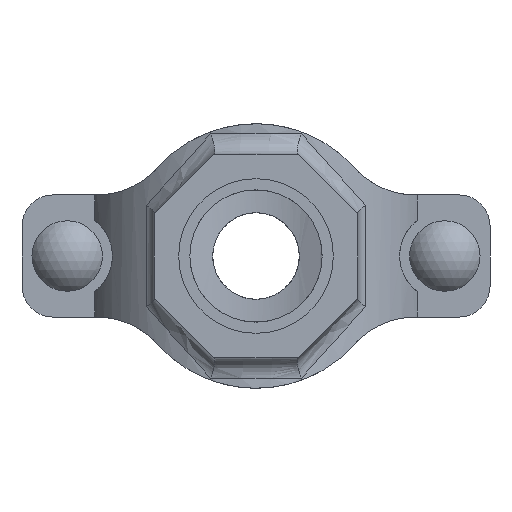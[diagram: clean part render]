
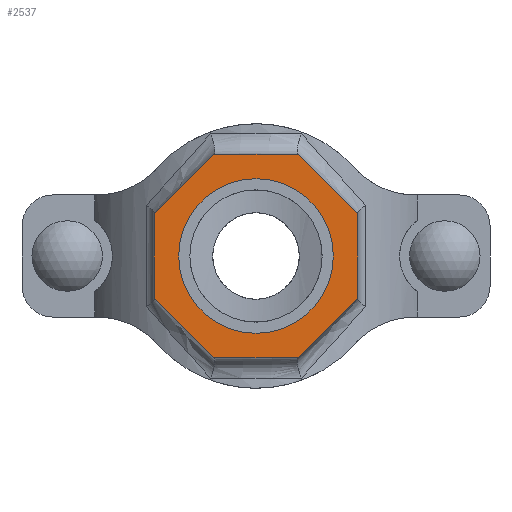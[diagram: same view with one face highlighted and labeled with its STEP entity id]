
A CAD part, front view. The second image highlights one B-rep face of the part: STEP entity #2537.
In plain terms, the highlighted planar face has unit normal (0, -1, 0) as drawn and (0, 1, 0) by its records, which use the part's own axes.
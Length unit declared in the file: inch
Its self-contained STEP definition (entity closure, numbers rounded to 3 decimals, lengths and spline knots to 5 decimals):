
#186=FACE_BOUND('',#457,.T.);
#305=FACE_OUTER_BOUND('',#456,.T.);
#456=EDGE_LOOP('',(#2128,#2129,#2130,#2131,#2132,#2133,#2134,#2135));
#457=EDGE_LOOP('',(#2136));
#594=LINE('',#4615,#780);
#597=LINE('',#4620,#783);
#599=LINE('',#4624,#785);
#601=LINE('',#4628,#787);
#637=LINE('',#5069,#823);
#639=LINE('',#5073,#825);
#641=LINE('',#5077,#827);
#643=LINE('',#5080,#829);
#780=VECTOR('',#3278,0.3937);
#783=VECTOR('',#3283,0.3937);
#785=VECTOR('',#3287,0.3937);
#787=VECTOR('',#3291,0.3937);
#823=VECTOR('',#3419,0.3937);
#825=VECTOR('',#3423,0.3937);
#827=VECTOR('',#3427,0.3937);
#829=VECTOR('',#3431,0.3937);
#919=CIRCLE('',#2802,0.95);
#1097=VERTEX_POINT('',#4612);
#1098=VERTEX_POINT('',#4614);
#1099=VERTEX_POINT('',#4618);
#1100=VERTEX_POINT('',#4622);
#1101=VERTEX_POINT('',#4626);
#1136=VERTEX_POINT('',#4906);
#1158=VERTEX_POINT('',#5068);
#1159=VERTEX_POINT('',#5072);
#1160=VERTEX_POINT('',#5076);
#1408=EDGE_CURVE('',#1098,#1097,#594,.T.);
#1411=EDGE_CURVE('',#1097,#1099,#597,.T.);
#1413=EDGE_CURVE('',#1099,#1100,#599,.T.);
#1415=EDGE_CURVE('',#1100,#1101,#601,.T.);
#1461=EDGE_CURVE('',#1136,#1136,#919,.T.);
#1491=EDGE_CURVE('',#1158,#1098,#637,.T.);
#1493=EDGE_CURVE('',#1159,#1158,#639,.T.);
#1495=EDGE_CURVE('',#1160,#1159,#641,.T.);
#1497=EDGE_CURVE('',#1101,#1160,#643,.T.);
#2128=ORIENTED_EDGE('',*,*,#1497,.T.);
#2129=ORIENTED_EDGE('',*,*,#1495,.T.);
#2130=ORIENTED_EDGE('',*,*,#1493,.T.);
#2131=ORIENTED_EDGE('',*,*,#1491,.T.);
#2132=ORIENTED_EDGE('',*,*,#1408,.T.);
#2133=ORIENTED_EDGE('',*,*,#1411,.T.);
#2134=ORIENTED_EDGE('',*,*,#1413,.T.);
#2135=ORIENTED_EDGE('',*,*,#1415,.T.);
#2136=ORIENTED_EDGE('',*,*,#1461,.T.);
#2278=PLANE('',#2823);
#2537=ADVANCED_FACE('',(#305,#186),#2278,.T.);
#2802=AXIS2_PLACEMENT_3D('',#4907,#3369,#3370);
#2823=AXIS2_PLACEMENT_3D('',#5081,#3432,#3433);
#3278=DIRECTION('',(0.,0.,1.));
#3283=DIRECTION('',(0.707,0.,0.707));
#3287=DIRECTION('',(1.,0.,0.));
#3291=DIRECTION('',(0.707,0.,-0.707));
#3369=DIRECTION('center_axis',(0.,-1.,0.));
#3370=DIRECTION('ref_axis',(-1.,0.,0.));
#3419=DIRECTION('',(-0.707,0.,0.707));
#3423=DIRECTION('',(-1.,0.,0.));
#3427=DIRECTION('',(-0.707,0.,-0.707));
#3431=DIRECTION('',(0.,0.,-1.));
#3432=DIRECTION('center_axis',(0.,1.,0.));
#3433=DIRECTION('ref_axis',(0.,0.,1.));
#4612=CARTESIAN_POINT('',(-1.25,3.5,0.51777));
#4614=CARTESIAN_POINT('',(-1.25,3.5,-0.51777));
#4615=CARTESIAN_POINT('',(-1.25,3.5,0.51777));
#4618=CARTESIAN_POINT('',(-0.51777,3.5,1.25));
#4620=CARTESIAN_POINT('',(-0.51777,3.5,1.25));
#4622=CARTESIAN_POINT('',(0.51777,3.5,1.25));
#4624=CARTESIAN_POINT('',(0.51777,3.5,1.25));
#4626=CARTESIAN_POINT('',(1.25,3.5,0.51777));
#4628=CARTESIAN_POINT('',(1.25,3.5,0.51777));
#4906=CARTESIAN_POINT('',(0.95,3.5,0.));
#4907=CARTESIAN_POINT('Origin',(0.,3.5,0.));
#5068=CARTESIAN_POINT('',(-0.51777,3.5,-1.25));
#5069=CARTESIAN_POINT('',(-1.25,3.5,-0.51777));
#5072=CARTESIAN_POINT('',(0.51777,3.5,-1.25));
#5073=CARTESIAN_POINT('',(-0.51777,3.5,-1.25));
#5076=CARTESIAN_POINT('',(1.25,3.5,-0.51777));
#5077=CARTESIAN_POINT('',(0.51777,3.5,-1.25));
#5080=CARTESIAN_POINT('',(1.25,3.5,-0.51777));
#5081=CARTESIAN_POINT('Origin',(0.,3.5,0.));
